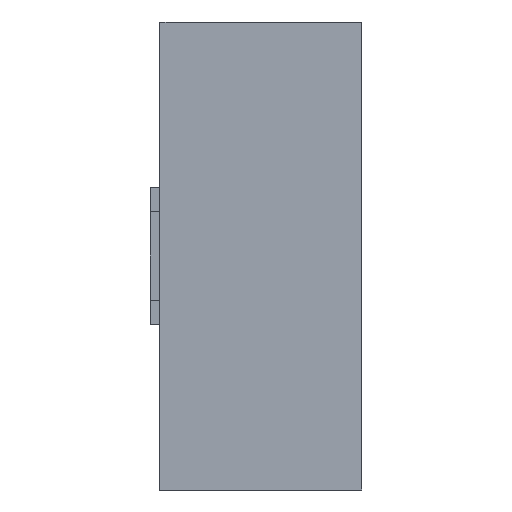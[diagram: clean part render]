
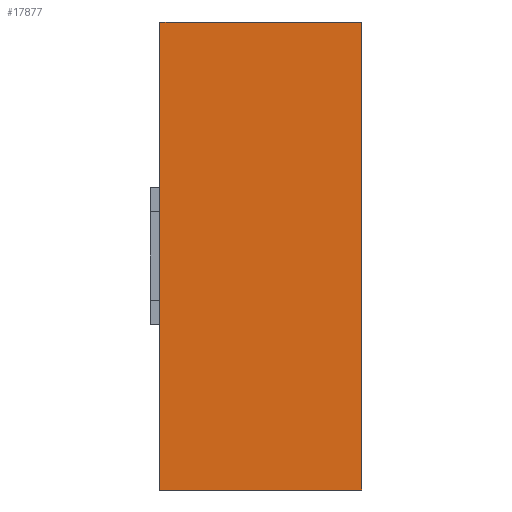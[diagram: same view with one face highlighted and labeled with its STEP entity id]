
A CAD part, left-side view. The second image highlights one B-rep face of the part: STEP entity #17877.
In plain terms, the highlighted planar face has unit normal (-1, 0, 0).
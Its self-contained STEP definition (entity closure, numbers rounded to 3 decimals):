
#6978 = CARTESIAN_POINT ( 'NONE',  ( 0., 22.569, 29. ) ) ;
#6979 = DIRECTION ( 'NONE',  ( 0., 0., 1. ) ) ;
#6980 = VECTOR ( 'NONE', #6979, 1000. ) ;
#6981 = CARTESIAN_POINT ( 'NONE',  ( 0., 22.569, 14.5 ) ) ;
#6982 = LINE ( 'NONE', #6981, #6980 ) ;
#6984 = CARTESIAN_POINT ( 'NONE',  ( 0., 22.569, 0. ) ) ;
#7662 = CARTESIAN_POINT ( 'NONE',  ( 0., 10.069, 29. ) ) ;
#7663 = DIRECTION ( 'NONE',  ( 0., -1., 0. ) ) ;
#7664 = VECTOR ( 'NONE', #7663, 1000. ) ;
#7665 = CARTESIAN_POINT ( 'NONE',  ( 0., 15.569, 29. ) ) ;
#7666 = LINE ( 'NONE', #7665, #7664 ) ;
#9188 = DIRECTION ( 'NONE',  ( 0., 0., -1. ) ) ;
#9189 = VECTOR ( 'NONE', #9188, 1000. ) ;
#9190 = CARTESIAN_POINT ( 'NONE',  ( 0., 10.069, 0. ) ) ;
#9191 = LINE ( 'NONE', #9190, #9189 ) ;
#9192 = CARTESIAN_POINT ( 'NONE',  ( 0., 10.069, 0. ) ) ;
#9193 = DIRECTION ( 'NONE',  ( 0., 1., 0. ) ) ;
#9194 = VECTOR ( 'NONE', #9193, 1000. ) ;
#9195 = CARTESIAN_POINT ( 'NONE',  ( 0., 15.569, 0. ) ) ;
#9196 = LINE ( 'NONE', #9195, #9194 ) ;
#9197 = DIRECTION ( 'NONE',  ( 0., 0., -1. ) ) ;
#9198 = DIRECTION ( 'NONE',  ( 1., 0., 0. ) ) ;
#9199 = CARTESIAN_POINT ( 'NONE',  ( 0., 16.569, 14.5 ) ) ;
#9200 = AXIS2_PLACEMENT_3D ( 'NONE', #9199, #9198, #9197 ) ;
#9201 = PLANE ( 'NONE',  #9200 ) ;
#9202 = FACE_OUTER_BOUND ( 'NONE', #17837, .T. ) ;
#16691 = VERTEX_POINT ( 'NONE', #6984 ) ;
#16694 = EDGE_CURVE ( 'NONE', #16691, #16695, #6982, .T. ) ;
#16695 = VERTEX_POINT ( 'NONE', #6978 ) ;
#17029 = EDGE_CURVE ( 'NONE', #16695, #17030, #7666, .T. ) ;
#17030 = VERTEX_POINT ( 'NONE', #7662 ) ;
#17806 = ORIENTED_EDGE ( 'NONE', *, *, #17029, .F. ) ;
#17837 = EDGE_LOOP ( 'NONE', ( #17879, #17881, #17886, #17806 ) ) ;
#17877 = ADVANCED_FACE ( 'NONE', ( #9202 ), #9201, .F. ) ;
#17879 = ORIENTED_EDGE ( 'NONE', *, *, #16694, .F. ) ;
#17881 = ORIENTED_EDGE ( 'NONE', *, *, #17883, .F. ) ;
#17883 = EDGE_CURVE ( 'NONE', #17884, #16691, #9196, .T. ) ;
#17884 = VERTEX_POINT ( 'NONE', #9192 ) ;
#17886 = ORIENTED_EDGE ( 'NONE', *, *, #17888, .F. ) ;
#17888 = EDGE_CURVE ( 'NONE', #17030, #17884, #9191, .T. ) ;
